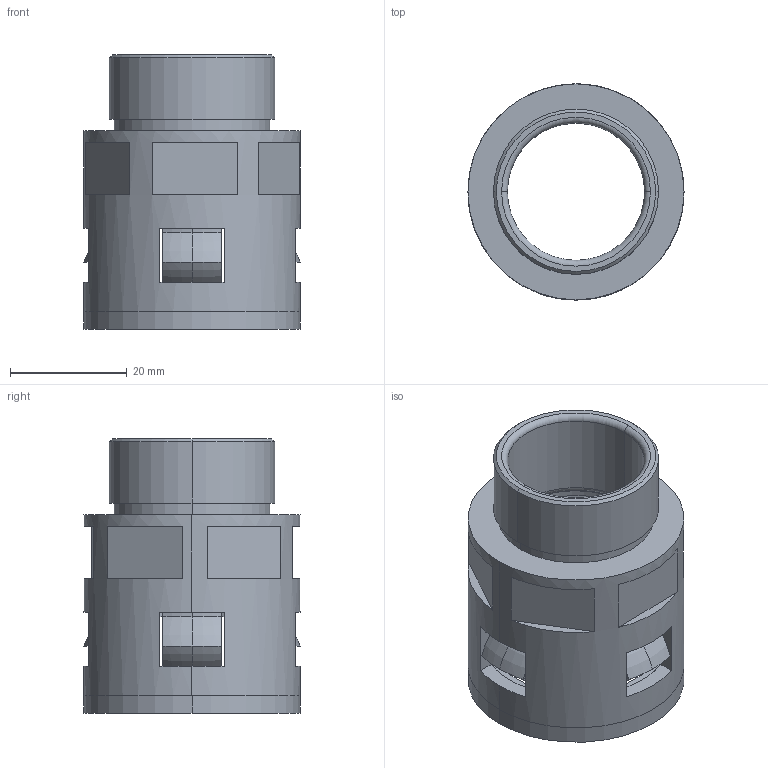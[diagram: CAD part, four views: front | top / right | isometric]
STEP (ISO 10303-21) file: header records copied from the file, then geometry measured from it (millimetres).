
FILE_DESCRIPTION (( 'STEP AP203' ), '1' );
FILE_NAME ('WQG-P21-AD28.5.STEP', '2020-03-12T07:06:56', ( '' ), ( '' ), 'SwSTEP 2.0', 'SolidWorks 2016', '' );
FILE_SCHEMA (( 'CONFIG_CONTROL_DESIGN' ));
Length unit declared in the file: millimetre
Products named in the file (4): WQG-P21-AD28.5-01; WQG-P21-AD28.5; NSK-AD28.5; GFD-AD28.5
Assembly tree (3 placements, depth 2):
  WQG-P21-AD28.5
    WQG-P21-AD28.5-01
    GFD-AD28.5
    NSK-AD28.5
Bounding box: 37 x 37 x 47 mm (x, y, z)
Volume: 15291.3 mm3; surface area: 17721.5 mm2
Topology: 3 solids, 3 shells, 265 faces, 704 edges, 449 vertices
Faces by surface type: plane 123, cylinder 57, cone 47, torus 38
Entity records: 8963 total; most frequent: CARTESIAN_POINT 1728, DIRECTION 1525, ORIENTED_EDGE 1408, EDGE_CURVE 704, AXIS2_PLACEMENT_3D 598, VERTEX_POINT 449, LINE 329, VECTOR 329
